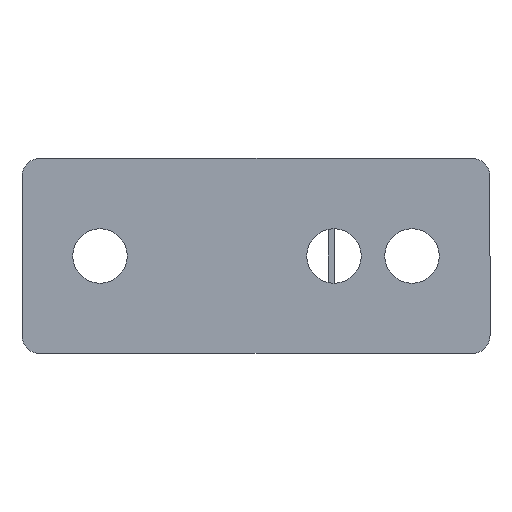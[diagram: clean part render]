
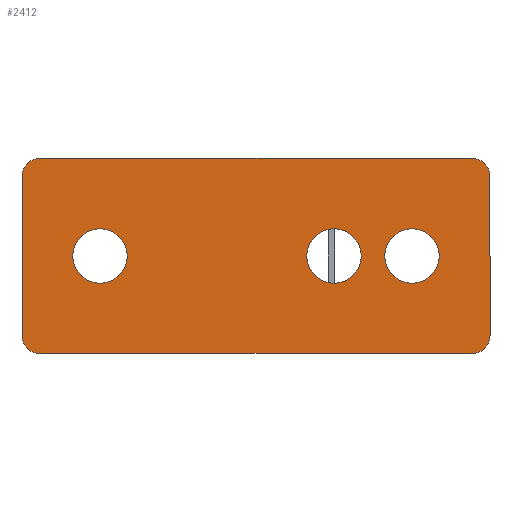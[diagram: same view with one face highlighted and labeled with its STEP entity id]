
A CAD part, left-side view. The second image highlights one B-rep face of the part: STEP entity #2412.
In plain terms, the highlighted planar face has unit normal (-1, 0, 0) as drawn and (0, -1, 0) by its records, which use the part's own axes.
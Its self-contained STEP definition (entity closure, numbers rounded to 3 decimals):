
#31 = ORIENTED_EDGE ( 'NONE', *, *, #2355, .T. ) ;
#43 = DIRECTION ( 'NONE',  ( 0., 1., 0. ) ) ;
#64 = CARTESIAN_POINT ( 'NONE',  ( -55.5, 0., -25. ) ) ;
#75 = ORIENTED_EDGE ( 'NONE', *, *, #1758, .T. ) ;
#84 = DIRECTION ( 'NONE',  ( 0., 0., -1. ) ) ;
#93 = CARTESIAN_POINT ( 'NONE',  ( -60., 0., -25. ) ) ;
#96 = EDGE_CURVE ( 'NONE', #2402, #851, #1205, .T. ) ;
#126 = FACE_BOUND ( 'NONE', #1267, .T. ) ;
#135 = DIRECTION ( 'NONE',  ( 0., 1., 0. ) ) ;
#140 = CARTESIAN_POINT ( 'NONE',  ( -20., 0., 7. ) ) ;
#158 = ORIENTED_EDGE ( 'NONE', *, *, #207, .F. ) ;
#163 = VECTOR ( 'NONE', #2417, 1000. ) ;
#186 = ORIENTED_EDGE ( 'NONE', *, *, #1922, .T. ) ;
#207 = EDGE_CURVE ( 'NONE', #1815, #2393, #2621, .T. ) ;
#212 = CARTESIAN_POINT ( 'NONE',  ( -20., 0., 0. ) ) ;
#250 = ORIENTED_EDGE ( 'NONE', *, *, #1519, .F. ) ;
#285 = DIRECTION ( 'NONE',  ( 0., -1., 0. ) ) ;
#297 = AXIS2_PLACEMENT_3D ( 'NONE', #686, #43, #2774 ) ;
#333 = FACE_OUTER_BOUND ( 'NONE', #2222, .T. ) ;
#369 = CARTESIAN_POINT ( 'NONE',  ( 40., 0., 0. ) ) ;
#395 = ORIENTED_EDGE ( 'NONE', *, *, #1938, .T. ) ;
#418 = LINE ( 'NONE', #1552, #163 ) ;
#419 = EDGE_CURVE ( 'NONE', #1027, #1802, #735, .T. ) ;
#500 = DIRECTION ( 'NONE',  ( 0., 0., -1. ) ) ;
#517 = EDGE_CURVE ( 'NONE', #2712, #2393, #2790, .T. ) ;
#523 = CARTESIAN_POINT ( 'NONE',  ( -60., 0., 20.5 ) ) ;
#527 = AXIS2_PLACEMENT_3D ( 'NONE', #1588, #880, #2023 ) ;
#622 = CARTESIAN_POINT ( 'NONE',  ( -60., 0., 25. ) ) ;
#636 = AXIS2_PLACEMENT_3D ( 'NONE', #212, #2039, #2721 ) ;
#649 = CARTESIAN_POINT ( 'NONE',  ( -40., 0., 7. ) ) ;
#653 = AXIS2_PLACEMENT_3D ( 'NONE', #2870, #135, #2463 ) ;
#662 = VECTOR ( 'NONE', #1218, 1000. ) ;
#686 = CARTESIAN_POINT ( 'NONE',  ( -40., 0., 0. ) ) ;
#693 = AXIS2_PLACEMENT_3D ( 'NONE', #369, #1956, #1739 ) ;
#712 = VERTEX_POINT ( 'NONE', #649 ) ;
#735 = LINE ( 'NONE', #93, #662 ) ;
#745 = CARTESIAN_POINT ( 'NONE',  ( 40., 0., -7. ) ) ;
#760 = CIRCLE ( 'NONE', #2136, 4.5 ) ;
#794 = VERTEX_POINT ( 'NONE', #1354 ) ;
#834 = DIRECTION ( 'NONE',  ( 0., 0., -1. ) ) ;
#851 = VERTEX_POINT ( 'NONE', #2253 ) ;
#880 = DIRECTION ( 'NONE',  ( 0., -1., 0. ) ) ;
#973 = DIRECTION ( 'NONE',  ( 0., -1., 0. ) ) ;
#982 = CIRCLE ( 'NONE', #653, 7. ) ;
#1013 = DIRECTION ( 'NONE',  ( 0., -1., 0. ) ) ;
#1018 = CARTESIAN_POINT ( 'NONE',  ( -55.5, 0., -20.5 ) ) ;
#1027 = VERTEX_POINT ( 'NONE', #2104 ) ;
#1031 = DIRECTION ( 'NONE',  ( 0., 0., 1. ) ) ;
#1033 = DIRECTION ( 'NONE',  ( 0., -1., 0. ) ) ;
#1034 = CARTESIAN_POINT ( 'NONE',  ( -55.5, 0., 25. ) ) ;
#1038 = ORIENTED_EDGE ( 'NONE', *, *, #2751, .T. ) ;
#1045 = CARTESIAN_POINT ( 'NONE',  ( 55.5, 0., -20.5 ) ) ;
#1059 = CIRCLE ( 'NONE', #1441, 4.5 ) ;
#1061 = DIRECTION ( 'NONE',  ( 0., 1., 0. ) ) ;
#1067 = EDGE_CURVE ( 'NONE', #2712, #794, #418, .T. ) ;
#1162 = CIRCLE ( 'NONE', #636, 7. ) ;
#1205 = LINE ( 'NONE', #2103, #2317 ) ;
#1218 = DIRECTION ( 'NONE',  ( -1., 0., 0. ) ) ;
#1267 = EDGE_LOOP ( 'NONE', ( #395, #31 ) ) ;
#1354 = CARTESIAN_POINT ( 'NONE',  ( 55.5, 0., 25. ) ) ;
#1364 = CIRCLE ( 'NONE', #693, 7. ) ;
#1378 = AXIS2_PLACEMENT_3D ( 'NONE', #2593, #973, #1663 ) ;
#1406 = ORIENTED_EDGE ( 'NONE', *, *, #96, .F. ) ;
#1441 = AXIS2_PLACEMENT_3D ( 'NONE', #1018, #285, #500 ) ;
#1468 = VECTOR ( 'NONE', #1498, 1000. ) ;
#1488 = PLANE ( 'NONE',  #1531 ) ;
#1498 = DIRECTION ( 'NONE',  ( 0., 0., 1. ) ) ;
#1519 = EDGE_CURVE ( 'NONE', #1964, #2490, #2052, .T. ) ;
#1531 = AXIS2_PLACEMENT_3D ( 'NONE', #2360, #1013, #1932 ) ;
#1552 = CARTESIAN_POINT ( 'NONE',  ( -60., 0., 25. ) ) ;
#1588 = CARTESIAN_POINT ( 'NONE',  ( 55.5, 0., 20.5 ) ) ;
#1595 = CARTESIAN_POINT ( 'NONE',  ( -40., 0., -7. ) ) ;
#1614 = EDGE_CURVE ( 'NONE', #2490, #1964, #1162, .T. ) ;
#1663 = DIRECTION ( 'NONE',  ( 0., 0., -1. ) ) ;
#1671 = CIRCLE ( 'NONE', #297, 7. ) ;
#1683 = ORIENTED_EDGE ( 'NONE', *, *, #517, .T. ) ;
#1728 = AXIS2_PLACEMENT_3D ( 'NONE', #2183, #1033, #1769 ) ;
#1731 = ORIENTED_EDGE ( 'NONE', *, *, #2283, .T. ) ;
#1739 = DIRECTION ( 'NONE',  ( 0., 0., -1. ) ) ;
#1758 = EDGE_CURVE ( 'NONE', #1815, #1802, #1059, .T. ) ;
#1767 = CIRCLE ( 'NONE', #2422, 7. ) ;
#1769 = DIRECTION ( 'NONE',  ( 0., 0., -1. ) ) ;
#1802 = VERTEX_POINT ( 'NONE', #64 ) ;
#1815 = VERTEX_POINT ( 'NONE', #2122 ) ;
#1833 = ORIENTED_EDGE ( 'NONE', *, *, #2805, .T. ) ;
#1844 = EDGE_LOOP ( 'NONE', ( #2197, #250 ) ) ;
#1859 = VERTEX_POINT ( 'NONE', #745 ) ;
#1922 = EDGE_CURVE ( 'NONE', #1027, #851, #760, .T. ) ;
#1932 = DIRECTION ( 'NONE',  ( 0., 0., -1. ) ) ;
#1938 = EDGE_CURVE ( 'NONE', #2910, #712, #1767, .T. ) ;
#1956 = DIRECTION ( 'NONE',  ( 0., 1., 0. ) ) ;
#1964 = VERTEX_POINT ( 'NONE', #2643 ) ;
#2023 = DIRECTION ( 'NONE',  ( 0., 0., -1. ) ) ;
#2039 = DIRECTION ( 'NONE',  ( 0., -1., 0. ) ) ;
#2052 = CIRCLE ( 'NONE', #1728, 7. ) ;
#2087 = CIRCLE ( 'NONE', #527, 4.5 ) ;
#2103 = CARTESIAN_POINT ( 'NONE',  ( 60., 0., 25. ) ) ;
#2104 = CARTESIAN_POINT ( 'NONE',  ( 55.5, 0., -25. ) ) ;
#2108 = EDGE_LOOP ( 'NONE', ( #1833, #1038 ) ) ;
#2122 = CARTESIAN_POINT ( 'NONE',  ( -60., 0., -20.5 ) ) ;
#2136 = AXIS2_PLACEMENT_3D ( 'NONE', #1045, #2883, #834 ) ;
#2160 = FACE_BOUND ( 'NONE', #2108, .T. ) ;
#2183 = CARTESIAN_POINT ( 'NONE',  ( -20., 0., 0. ) ) ;
#2197 = ORIENTED_EDGE ( 'NONE', *, *, #1614, .F. ) ;
#2222 = EDGE_LOOP ( 'NONE', ( #2332, #1683, #158, #75, #2860, #186, #1406, #1731 ) ) ;
#2253 = CARTESIAN_POINT ( 'NONE',  ( 60., 0., -20.5 ) ) ;
#2283 = EDGE_CURVE ( 'NONE', #2402, #794, #2087, .T. ) ;
#2317 = VECTOR ( 'NONE', #84, 1000. ) ;
#2332 = ORIENTED_EDGE ( 'NONE', *, *, #1067, .F. ) ;
#2355 = EDGE_CURVE ( 'NONE', #712, #2910, #1671, .T. ) ;
#2360 = CARTESIAN_POINT ( 'NONE',  ( 60., 0., -25. ) ) ;
#2393 = VERTEX_POINT ( 'NONE', #523 ) ;
#2402 = VERTEX_POINT ( 'NONE', #2512 ) ;
#2412 = ADVANCED_FACE ( 'NONE', ( #2587, #126, #333, #2160 ), #1488, .T. ) ;
#2417 = DIRECTION ( 'NONE',  ( 1., 0., 0. ) ) ;
#2420 = CARTESIAN_POINT ( 'NONE',  ( 40., 0., 7. ) ) ;
#2422 = AXIS2_PLACEMENT_3D ( 'NONE', #2443, #1061, #1031 ) ;
#2443 = CARTESIAN_POINT ( 'NONE',  ( -40., 0., 0. ) ) ;
#2463 = DIRECTION ( 'NONE',  ( 0., 0., -1. ) ) ;
#2490 = VERTEX_POINT ( 'NONE', #140 ) ;
#2512 = CARTESIAN_POINT ( 'NONE',  ( 60., 0., 20.5 ) ) ;
#2539 = VERTEX_POINT ( 'NONE', #2420 ) ;
#2587 = FACE_BOUND ( 'NONE', #1844, .T. ) ;
#2593 = CARTESIAN_POINT ( 'NONE',  ( -55.5, 0., 20.5 ) ) ;
#2621 = LINE ( 'NONE', #622, #1468 ) ;
#2643 = CARTESIAN_POINT ( 'NONE',  ( -20., 0., -7. ) ) ;
#2712 = VERTEX_POINT ( 'NONE', #1034 ) ;
#2721 = DIRECTION ( 'NONE',  ( 0., 0., -1. ) ) ;
#2751 = EDGE_CURVE ( 'NONE', #2539, #1859, #982, .T. ) ;
#2774 = DIRECTION ( 'NONE',  ( 0., 0., 1. ) ) ;
#2790 = CIRCLE ( 'NONE', #1378, 4.5 ) ;
#2805 = EDGE_CURVE ( 'NONE', #1859, #2539, #1364, .T. ) ;
#2860 = ORIENTED_EDGE ( 'NONE', *, *, #419, .F. ) ;
#2870 = CARTESIAN_POINT ( 'NONE',  ( 40., 0., 0. ) ) ;
#2883 = DIRECTION ( 'NONE',  ( 0., -1., 0. ) ) ;
#2910 = VERTEX_POINT ( 'NONE', #1595 ) ;
